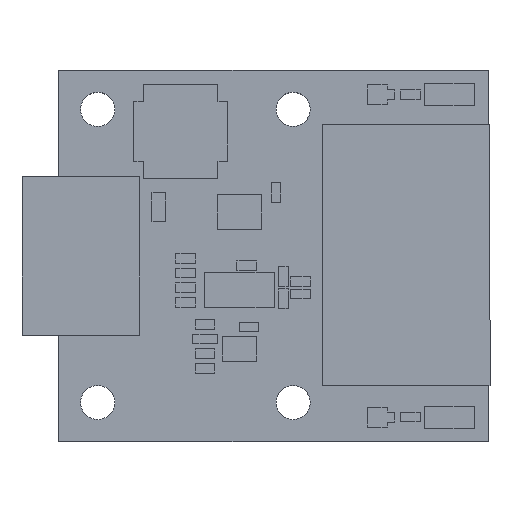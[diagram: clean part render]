
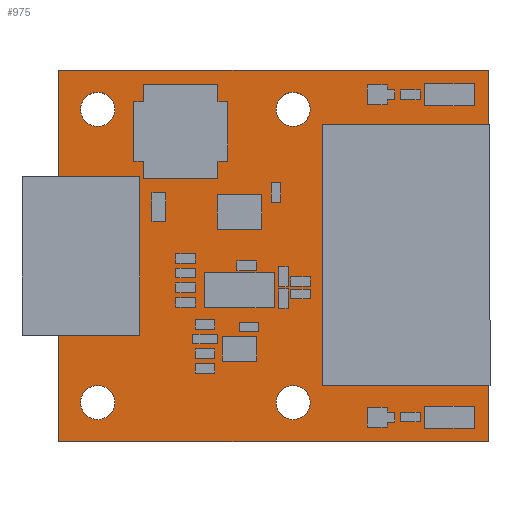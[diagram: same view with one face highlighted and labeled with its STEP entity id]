
A CAD part, top view. The second image highlights one B-rep face of the part: STEP entity #975.
In plain terms, the highlighted planar face has unit normal (0, 0, 1).
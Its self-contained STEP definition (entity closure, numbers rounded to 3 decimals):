
#196 = VERTEX_POINT('',#197);
#197 = CARTESIAN_POINT('',(10.,0.,0.));
#214 = VERTEX_POINT('',#215);
#215 = CARTESIAN_POINT('',(54.,0.,0.));
#221 = EDGE_CURVE('',#196,#214,#222,.T.);
#222 = LINE('',#223,#224);
#223 = CARTESIAN_POINT('',(10.,0.,0.));
#224 = VECTOR('',#225,1.);
#225 = DIRECTION('',(1.,0.,0.));
#236 = VERTEX_POINT('',#237);
#237 = CARTESIAN_POINT('',(10.,38.,0.));
#252 = EDGE_CURVE('',#236,#196,#253,.T.);
#253 = LINE('',#254,#255);
#254 = CARTESIAN_POINT('',(10.,38.,0.));
#255 = VECTOR('',#256,1.);
#256 = DIRECTION('',(0.,-1.,0.));
#276 = VERTEX_POINT('',#277);
#277 = CARTESIAN_POINT('',(54.,38.,0.));
#283 = EDGE_CURVE('',#214,#276,#284,.T.);
#284 = LINE('',#285,#286);
#285 = CARTESIAN_POINT('',(54.,0.,0.));
#286 = VECTOR('',#287,1.);
#287 = DIRECTION('',(0.,1.,0.));
#305 = EDGE_CURVE('',#276,#236,#306,.T.);
#306 = LINE('',#307,#308);
#307 = CARTESIAN_POINT('',(54.,38.,0.));
#308 = VECTOR('',#309,1.);
#309 = DIRECTION('',(-1.,0.,0.));
#320 = VERTEX_POINT('',#321);
#321 = CARTESIAN_POINT('',(15.75,4.,0.));
#337 = EDGE_CURVE('',#320,#320,#338,.T.);
#338 = CIRCLE('',#339,1.75);
#339 = AXIS2_PLACEMENT_3D('',#340,#341,#342);
#340 = CARTESIAN_POINT('',(14.,4.,0.));
#341 = DIRECTION('',(0.,0.,1.));
#342 = DIRECTION('',(1.,0.,-0.));
#353 = VERTEX_POINT('',#354);
#354 = CARTESIAN_POINT('',(15.5,12.75,0.));
#370 = EDGE_CURVE('',#353,#353,#371,.T.);
#371 = CIRCLE('',#372,0.5);
#372 = AXIS2_PLACEMENT_3D('',#373,#374,#375);
#373 = CARTESIAN_POINT('',(15.,12.75,0.));
#374 = DIRECTION('',(0.,0.,1.));
#375 = DIRECTION('',(1.,0.,-0.));
#386 = VERTEX_POINT('',#387);
#387 = CARTESIAN_POINT('',(15.5,15.25,0.));
#403 = EDGE_CURVE('',#386,#386,#404,.T.);
#404 = CIRCLE('',#405,0.5);
#405 = AXIS2_PLACEMENT_3D('',#406,#407,#408);
#406 = CARTESIAN_POINT('',(15.,15.25,0.));
#407 = DIRECTION('',(0.,0.,1.));
#408 = DIRECTION('',(1.,0.,-0.));
#419 = VERTEX_POINT('',#420);
#420 = CARTESIAN_POINT('',(15.5,17.75,0.));
#436 = EDGE_CURVE('',#419,#419,#437,.T.);
#437 = CIRCLE('',#438,0.5);
#438 = AXIS2_PLACEMENT_3D('',#439,#440,#441);
#439 = CARTESIAN_POINT('',(15.,17.75,0.));
#440 = DIRECTION('',(0.,0.,1.));
#441 = DIRECTION('',(1.,0.,-0.));
#452 = VERTEX_POINT('',#453);
#453 = CARTESIAN_POINT('',(35.75,4.,0.));
#469 = EDGE_CURVE('',#452,#452,#470,.T.);
#470 = CIRCLE('',#471,1.75);
#471 = AXIS2_PLACEMENT_3D('',#472,#473,#474);
#472 = CARTESIAN_POINT('',(34.,4.,0.));
#473 = DIRECTION('',(0.,0.,1.));
#474 = DIRECTION('',(1.,0.,-0.));
#485 = VERTEX_POINT('',#486);
#486 = CARTESIAN_POINT('',(43.65,8.2,0.));
#502 = EDGE_CURVE('',#485,#485,#503,.T.);
#503 = CIRCLE('',#504,0.65);
#504 = AXIS2_PLACEMENT_3D('',#505,#506,#507);
#505 = CARTESIAN_POINT('',(43.,8.2,0.));
#506 = DIRECTION('',(0.,0.,1.));
#507 = DIRECTION('',(1.,0.,-0.));
#518 = VERTEX_POINT('',#519);
#519 = CARTESIAN_POINT('',(48.65,8.2,0.));
#535 = EDGE_CURVE('',#518,#518,#536,.T.);
#536 = CIRCLE('',#537,0.65);
#537 = AXIS2_PLACEMENT_3D('',#538,#539,#540);
#538 = CARTESIAN_POINT('',(48.,8.2,0.));
#539 = DIRECTION('',(0.,0.,1.));
#540 = DIRECTION('',(1.,0.,-0.));
#551 = VERTEX_POINT('',#552);
#552 = CARTESIAN_POINT('',(43.65,13.2,0.));
#568 = EDGE_CURVE('',#551,#551,#569,.T.);
#569 = CIRCLE('',#570,0.65);
#570 = AXIS2_PLACEMENT_3D('',#571,#572,#573);
#571 = CARTESIAN_POINT('',(43.,13.2,0.));
#572 = DIRECTION('',(0.,0.,1.));
#573 = DIRECTION('',(1.,0.,-0.));
#584 = VERTEX_POINT('',#585);
#585 = CARTESIAN_POINT('',(48.65,13.2,0.));
#601 = EDGE_CURVE('',#584,#584,#602,.T.);
#602 = CIRCLE('',#603,0.65);
#603 = AXIS2_PLACEMENT_3D('',#604,#605,#606);
#604 = CARTESIAN_POINT('',(48.,13.2,0.));
#605 = DIRECTION('',(0.,0.,1.));
#606 = DIRECTION('',(1.,0.,-0.));
#617 = VERTEX_POINT('',#618);
#618 = CARTESIAN_POINT('',(43.65,18.2,0.));
#634 = EDGE_CURVE('',#617,#617,#635,.T.);
#635 = CIRCLE('',#636,0.65);
#636 = AXIS2_PLACEMENT_3D('',#637,#638,#639);
#637 = CARTESIAN_POINT('',(43.,18.2,0.));
#638 = DIRECTION('',(0.,0.,1.));
#639 = DIRECTION('',(1.,0.,-0.));
#650 = VERTEX_POINT('',#651);
#651 = CARTESIAN_POINT('',(48.65,18.2,0.));
#667 = EDGE_CURVE('',#650,#650,#668,.T.);
#668 = CIRCLE('',#669,0.65);
#669 = AXIS2_PLACEMENT_3D('',#670,#671,#672);
#670 = CARTESIAN_POINT('',(48.,18.2,0.));
#671 = DIRECTION('',(0.,0.,1.));
#672 = DIRECTION('',(1.,0.,-0.));
#683 = VERTEX_POINT('',#684);
#684 = CARTESIAN_POINT('',(15.5,20.25,0.));
#700 = EDGE_CURVE('',#683,#683,#701,.T.);
#701 = CIRCLE('',#702,0.5);
#702 = AXIS2_PLACEMENT_3D('',#703,#704,#705);
#703 = CARTESIAN_POINT('',(15.,20.25,0.));
#704 = DIRECTION('',(0.,0.,1.));
#705 = DIRECTION('',(1.,0.,-0.));
#716 = VERTEX_POINT('',#717);
#717 = CARTESIAN_POINT('',(15.5,22.75,0.));
#733 = EDGE_CURVE('',#716,#716,#734,.T.);
#734 = CIRCLE('',#735,0.5);
#735 = AXIS2_PLACEMENT_3D('',#736,#737,#738);
#736 = CARTESIAN_POINT('',(15.,22.75,0.));
#737 = DIRECTION('',(0.,0.,1.));
#738 = DIRECTION('',(1.,0.,-0.));
#749 = VERTEX_POINT('',#750);
#750 = CARTESIAN_POINT('',(15.5,25.25,0.));
#766 = EDGE_CURVE('',#749,#749,#767,.T.);
#767 = CIRCLE('',#768,0.5);
#768 = AXIS2_PLACEMENT_3D('',#769,#770,#771);
#769 = CARTESIAN_POINT('',(15.,25.25,0.));
#770 = DIRECTION('',(0.,0.,1.));
#771 = DIRECTION('',(1.,0.,-0.));
#782 = VERTEX_POINT('',#783);
#783 = CARTESIAN_POINT('',(15.75,34.,0.));
#799 = EDGE_CURVE('',#782,#782,#800,.T.);
#800 = CIRCLE('',#801,1.75);
#801 = AXIS2_PLACEMENT_3D('',#802,#803,#804);
#802 = CARTESIAN_POINT('',(14.,34.,0.));
#803 = DIRECTION('',(0.,0.,1.));
#804 = DIRECTION('',(1.,0.,-0.));
#815 = VERTEX_POINT('',#816);
#816 = CARTESIAN_POINT('',(43.65,23.2,0.));
#832 = EDGE_CURVE('',#815,#815,#833,.T.);
#833 = CIRCLE('',#834,0.65);
#834 = AXIS2_PLACEMENT_3D('',#835,#836,#837);
#835 = CARTESIAN_POINT('',(43.,23.2,0.));
#836 = DIRECTION('',(0.,0.,1.));
#837 = DIRECTION('',(1.,0.,-0.));
#848 = VERTEX_POINT('',#849);
#849 = CARTESIAN_POINT('',(48.65,23.2,0.));
#865 = EDGE_CURVE('',#848,#848,#866,.T.);
#866 = CIRCLE('',#867,0.65);
#867 = AXIS2_PLACEMENT_3D('',#868,#869,#870);
#868 = CARTESIAN_POINT('',(48.,23.2,0.));
#869 = DIRECTION('',(0.,0.,1.));
#870 = DIRECTION('',(1.,0.,-0.));
#881 = VERTEX_POINT('',#882);
#882 = CARTESIAN_POINT('',(35.75,34.,0.));
#898 = EDGE_CURVE('',#881,#881,#899,.T.);
#899 = CIRCLE('',#900,1.75);
#900 = AXIS2_PLACEMENT_3D('',#901,#902,#903);
#901 = CARTESIAN_POINT('',(34.,34.,0.));
#902 = DIRECTION('',(0.,0.,1.));
#903 = DIRECTION('',(1.,0.,-0.));
#914 = VERTEX_POINT('',#915);
#915 = CARTESIAN_POINT('',(43.65,28.2,0.));
#931 = EDGE_CURVE('',#914,#914,#932,.T.);
#932 = CIRCLE('',#933,0.65);
#933 = AXIS2_PLACEMENT_3D('',#934,#935,#936);
#934 = CARTESIAN_POINT('',(43.,28.2,0.));
#935 = DIRECTION('',(0.,0.,1.));
#936 = DIRECTION('',(1.,0.,-0.));
#947 = VERTEX_POINT('',#948);
#948 = CARTESIAN_POINT('',(48.65,28.2,0.));
#964 = EDGE_CURVE('',#947,#947,#965,.T.);
#965 = CIRCLE('',#966,0.65);
#966 = AXIS2_PLACEMENT_3D('',#967,#968,#969);
#967 = CARTESIAN_POINT('',(48.,28.2,0.));
#968 = DIRECTION('',(0.,0.,1.));
#969 = DIRECTION('',(1.,0.,-0.));
#975 = ADVANCED_FACE('',(#976,#982,#985,#988,#991,#994,#997,#1000,#1003,
    #1006,#1009,#1012,#1015,#1018,#1021,#1024,#1027,#1030,#1033,#1036,
    #1039),#1042,.T.);
#976 = FACE_BOUND('',#977,.T.);
#977 = EDGE_LOOP('',(#978,#979,#980,#981));
#978 = ORIENTED_EDGE('',*,*,#221,.T.);
#979 = ORIENTED_EDGE('',*,*,#283,.T.);
#980 = ORIENTED_EDGE('',*,*,#305,.T.);
#981 = ORIENTED_EDGE('',*,*,#252,.T.);
#982 = FACE_BOUND('',#983,.T.);
#983 = EDGE_LOOP('',(#984));
#984 = ORIENTED_EDGE('',*,*,#337,.F.);
#985 = FACE_BOUND('',#986,.T.);
#986 = EDGE_LOOP('',(#987));
#987 = ORIENTED_EDGE('',*,*,#370,.F.);
#988 = FACE_BOUND('',#989,.T.);
#989 = EDGE_LOOP('',(#990));
#990 = ORIENTED_EDGE('',*,*,#403,.F.);
#991 = FACE_BOUND('',#992,.T.);
#992 = EDGE_LOOP('',(#993));
#993 = ORIENTED_EDGE('',*,*,#436,.F.);
#994 = FACE_BOUND('',#995,.T.);
#995 = EDGE_LOOP('',(#996));
#996 = ORIENTED_EDGE('',*,*,#469,.F.);
#997 = FACE_BOUND('',#998,.T.);
#998 = EDGE_LOOP('',(#999));
#999 = ORIENTED_EDGE('',*,*,#502,.F.);
#1000 = FACE_BOUND('',#1001,.T.);
#1001 = EDGE_LOOP('',(#1002));
#1002 = ORIENTED_EDGE('',*,*,#535,.F.);
#1003 = FACE_BOUND('',#1004,.T.);
#1004 = EDGE_LOOP('',(#1005));
#1005 = ORIENTED_EDGE('',*,*,#568,.F.);
#1006 = FACE_BOUND('',#1007,.T.);
#1007 = EDGE_LOOP('',(#1008));
#1008 = ORIENTED_EDGE('',*,*,#601,.F.);
#1009 = FACE_BOUND('',#1010,.T.);
#1010 = EDGE_LOOP('',(#1011));
#1011 = ORIENTED_EDGE('',*,*,#634,.F.);
#1012 = FACE_BOUND('',#1013,.T.);
#1013 = EDGE_LOOP('',(#1014));
#1014 = ORIENTED_EDGE('',*,*,#667,.F.);
#1015 = FACE_BOUND('',#1016,.T.);
#1016 = EDGE_LOOP('',(#1017));
#1017 = ORIENTED_EDGE('',*,*,#700,.F.);
#1018 = FACE_BOUND('',#1019,.T.);
#1019 = EDGE_LOOP('',(#1020));
#1020 = ORIENTED_EDGE('',*,*,#733,.F.);
#1021 = FACE_BOUND('',#1022,.T.);
#1022 = EDGE_LOOP('',(#1023));
#1023 = ORIENTED_EDGE('',*,*,#766,.F.);
#1024 = FACE_BOUND('',#1025,.T.);
#1025 = EDGE_LOOP('',(#1026));
#1026 = ORIENTED_EDGE('',*,*,#799,.F.);
#1027 = FACE_BOUND('',#1028,.T.);
#1028 = EDGE_LOOP('',(#1029));
#1029 = ORIENTED_EDGE('',*,*,#832,.F.);
#1030 = FACE_BOUND('',#1031,.T.);
#1031 = EDGE_LOOP('',(#1032));
#1032 = ORIENTED_EDGE('',*,*,#865,.F.);
#1033 = FACE_BOUND('',#1034,.T.);
#1034 = EDGE_LOOP('',(#1035));
#1035 = ORIENTED_EDGE('',*,*,#898,.F.);
#1036 = FACE_BOUND('',#1037,.T.);
#1037 = EDGE_LOOP('',(#1038));
#1038 = ORIENTED_EDGE('',*,*,#931,.F.);
#1039 = FACE_BOUND('',#1040,.T.);
#1040 = EDGE_LOOP('',(#1041));
#1041 = ORIENTED_EDGE('',*,*,#964,.F.);
#1042 = PLANE('',#1043);
#1043 = AXIS2_PLACEMENT_3D('',#1044,#1045,#1046);
#1044 = CARTESIAN_POINT('',(32.,19.,0.));
#1045 = DIRECTION('',(0.,0.,1.));
#1046 = DIRECTION('',(1.,0.,-0.));
